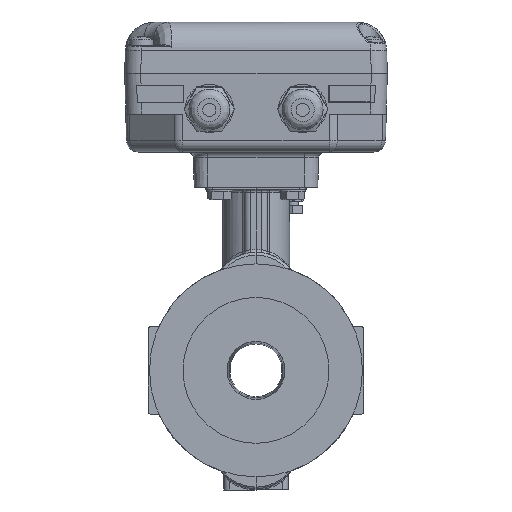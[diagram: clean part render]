
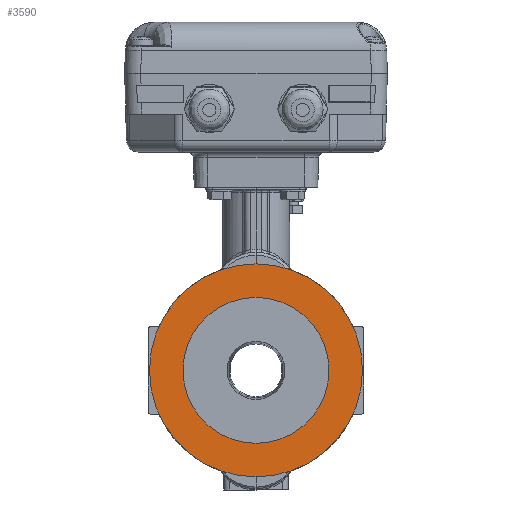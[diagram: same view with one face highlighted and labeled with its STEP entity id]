
A CAD part, left-side view. The second image highlights one B-rep face of the part: STEP entity #3590.
In plain terms, the highlighted planar face has unit normal (-1, 0, 0).
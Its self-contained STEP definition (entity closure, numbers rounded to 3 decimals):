
#3590=ADVANCED_FACE('',(#27959,#27961),#27963,.T.);
#27959=FACE_BOUND('',#27960,.T.);
#27960=EDGE_LOOP('',(#60295));
#27961=FACE_BOUND('',#27962,.T.);
#27962=EDGE_LOOP('',(#60296));
#27963=PLANE('',#27964);
#27964=AXIS2_PLACEMENT_3D('',#27965,#27966,#27967);
#27965=CARTESIAN_POINT('',(-53.,0.,0.));
#27966=DIRECTION('',(-1.,0.,0.));
#27967=DIRECTION('',(0.,0.,-1.));
#60295=ORIENTED_EDGE('',*,*,#70340,.F.);
#60296=ORIENTED_EDGE('',*,*,#70337,.T.);
#70337=EDGE_CURVE('',#76198,#76198,#76199,.F.);
#70340=EDGE_CURVE('',#76204,#76204,#76205,.T.);
#76198=VERTEX_POINT('',#95453);
#76199=CIRCLE('',#95454,25.);
#76204=VERTEX_POINT('',#95468);
#76205=CIRCLE('',#95469,36.5);
#95453=CARTESIAN_POINT('',(-53.,-25.,0.));
#95454=AXIS2_PLACEMENT_3D('',#95455,#95456,#95457);
#95455=CARTESIAN_POINT('',(-53.,0.,0.));
#95456=DIRECTION('',(-1.,0.,0.));
#95457=DIRECTION('',(0.,-1.,0.));
#95468=CARTESIAN_POINT('',(-53.,0.,-36.5));
#95469=AXIS2_PLACEMENT_3D('',#95470,#95471,#95472);
#95470=CARTESIAN_POINT('',(-53.,0.,0.));
#95471=DIRECTION('',(1.,0.,0.));
#95472=DIRECTION('',(0.,0.,-1.));
